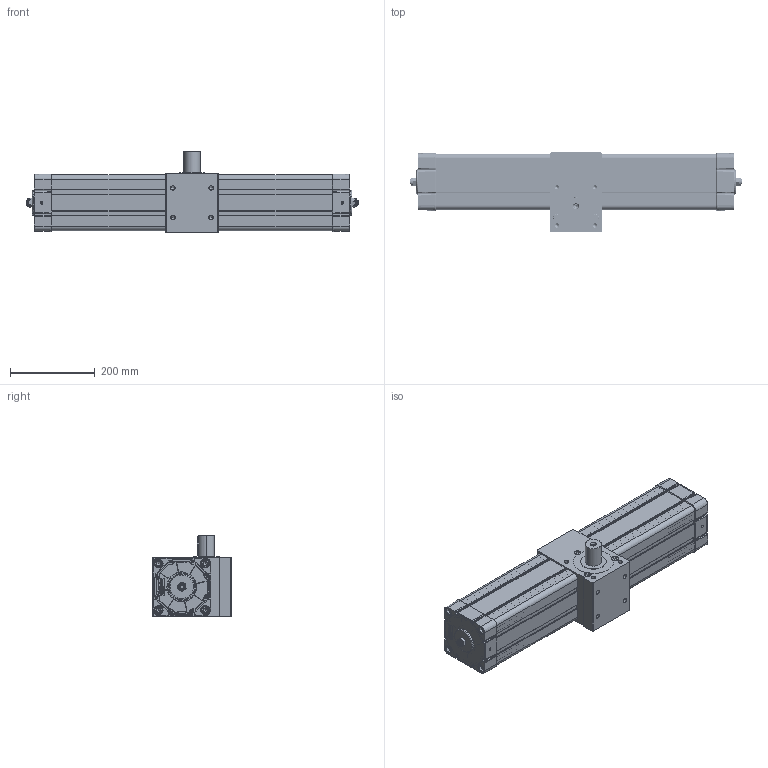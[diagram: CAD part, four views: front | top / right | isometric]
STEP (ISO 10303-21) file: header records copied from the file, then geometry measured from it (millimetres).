
FILE_DESCRIPTION (( 'STEP AP214' ), '1' );
FILE_NAME ('ARM270-125.STEP', '2021-06-07T13:32:26', ( '' ), ( '' ), 'SwSTEP 2.0', 'SolidWorks 2016', '' );
FILE_SCHEMA (( 'AUTOMOTIVE_DESIGN' ));
Length unit declared in the file: millimetre
Products named in the file (1): ARM270-125
Bounding box: 784 x 188 x 191 mm (x, y, z)
Volume: 5392745.3 mm3; surface area: 1584626.8 mm2
Topology: 41 solids, 41 shells, 4593 faces, 11445 edges, 6852 vertices
Faces by surface type: cylinder 1546, plane 1487, bspline 550, cone 498, torus 350, sphere 162
Entity records: 210158 total; most frequent: CARTESIAN_POINT 53364, ORIENTED_EDGE 22354, DIRECTION 22123, EDGE_CURVE 11177, AXIS2_PLACEMENT_3D 8421, VERTEX_POINT 6852, LINE 5281, VECTOR 5281
